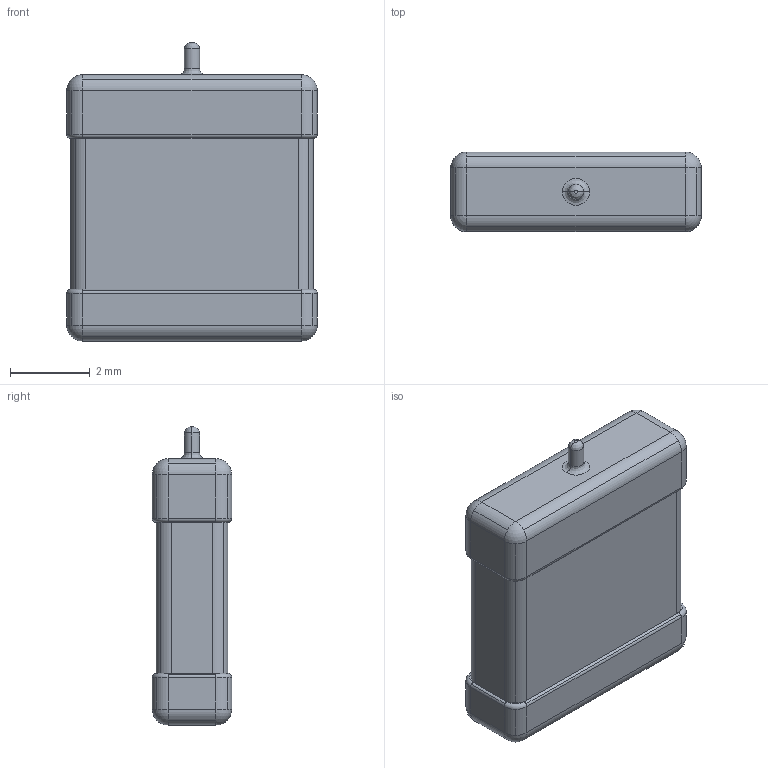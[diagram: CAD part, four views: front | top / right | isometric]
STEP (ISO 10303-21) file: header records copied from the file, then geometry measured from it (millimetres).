
FILE_DESCRIPTION((''),'2;1');
FILE_NAME('591D_M-case_20H.stp','2019-05-02T11:00:00',(''),(''),'AutoCAD STEP 2000i','AutoCAD 2000i',', , ');
FILE_SCHEMA(('CONFIG_CONTROL_DESIGN'));
Length unit declared in the file: millimetre
Products named in the file (2): 591D_M-CASE_20H; MODEL
Assembly tree (1 placements, depth 2):
  591D_M-CASE_20H
    MODEL
Bounding box: 6.3 x 2 x 7.5 mm (x, y, z)
Volume: 76.4 mm3; surface area: 125.7 mm2
Topology: 1 solids, 1 shells, 101 faces, 242 edges, 136 vertices
Faces by surface type: cylinder 58, plane 23, torus 8, sphere 8, bspline 4
Entity records: 3129 total; most frequent: CARTESIAN_POINT 649, DIRECTION 564, ORIENTED_EDGE 468, EDGE_CURVE 234, AXIS2_PLACEMENT_3D 231, VERTEX_POINT 136, CIRCLE 132, VECTOR 102
